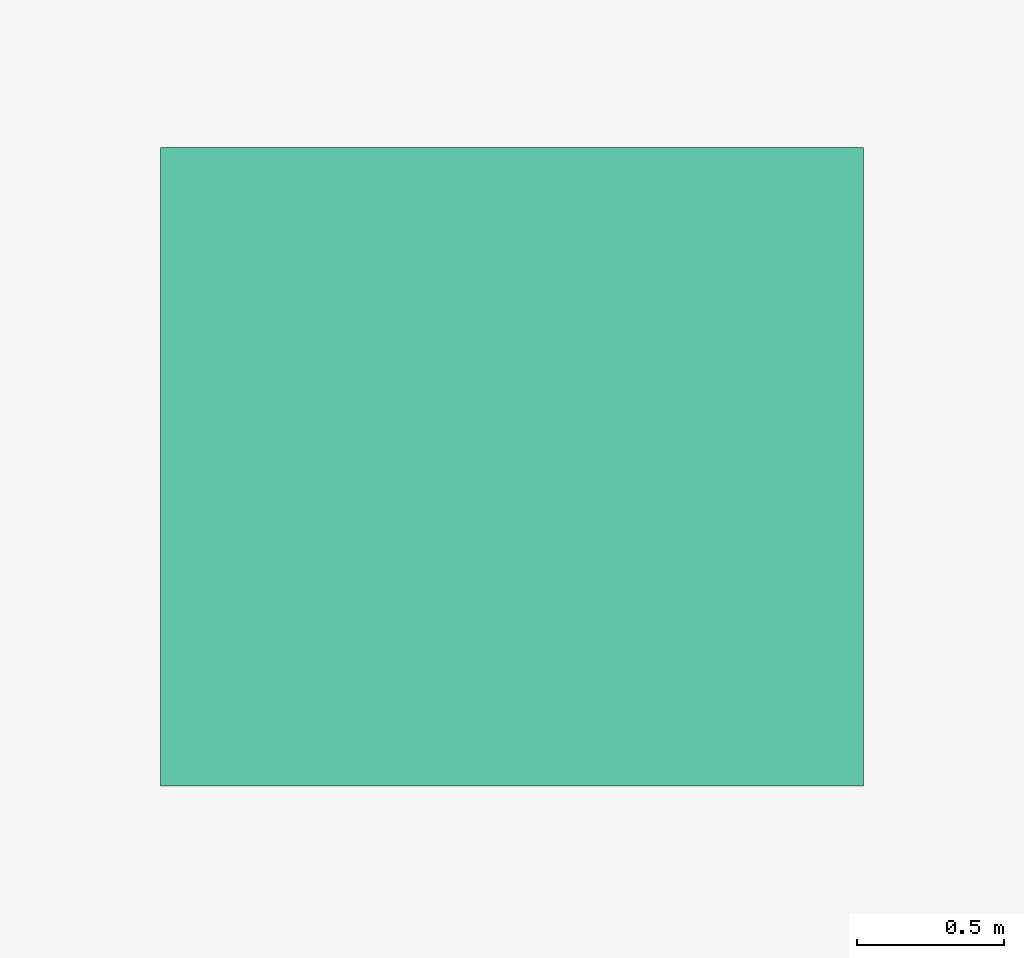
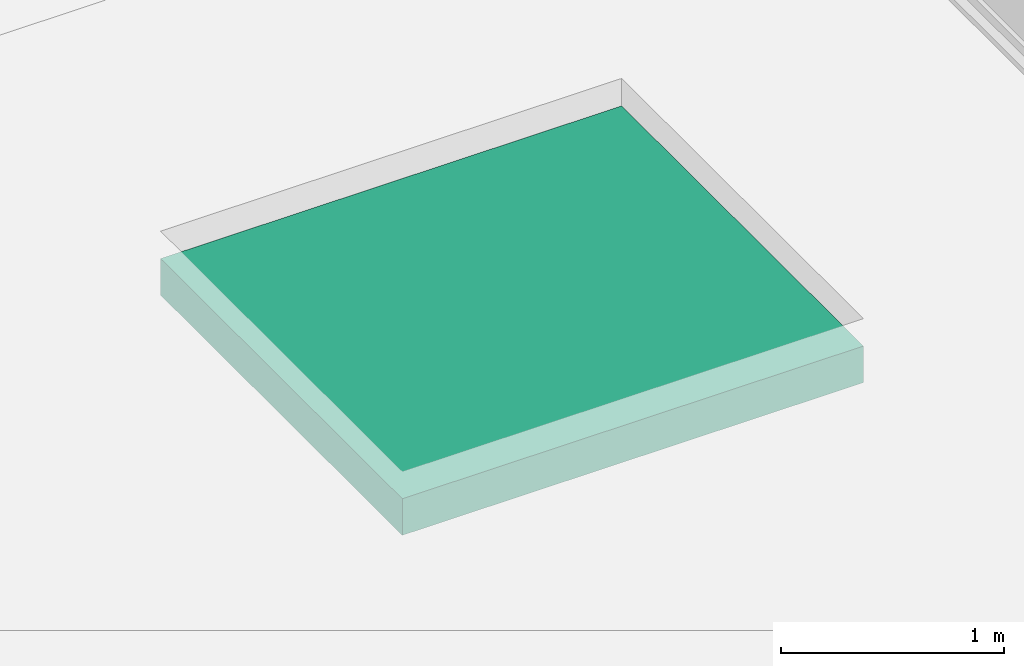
# One storey, part 21 of 28: 1 sanitary terminal.
"""IFC4X3_ADD2 building model written with IfcOpenShell, lengths in metres."""

from ifc_helpers import new_model, si_unit, direction, frame, origin_with_axes, origin_2d_with_axis, place, context, subcontext, project, spatial, rectangle, extrude, material, element, save


model = new_model("IFC4X3_ADD2")

# Units and contexts
model_context = context("Model", 3, precision=1e-05, world=origin_with_axes(), true_north=direction((0.0, 1.0)))
body_context = subcontext(model_context, "Body", "Model", "MODEL_VIEW")
ifc_project = project(units=[si_unit("LENGTHUNIT", "METRE"), si_unit("AREAUNIT", "SQUARE_METRE"), si_unit("VOLUMEUNIT", "CUBIC_METRE"), si_unit("PLANEANGLEUNIT", "RADIAN"), si_unit("TIMEUNIT", "SECOND"), si_unit("MASSUNIT", "GRAM")], contexts=[model_context])

# Site, building, storey
site_placement = place(None, origin_with_axes())
site = spatial("IfcSite", under=ifc_project, at=site_placement, Name="Site", CompositionType="ELEMENT")
building_placement = place(site_placement, origin_with_axes())
building = spatial("IfcBuilding", under=site, at=building_placement, Name="Default Building")
storey_placement = place(building_placement, frame((0.0, 0.0, -0.08), z_axis=(0.0, 0.0, 1.0), x_axis=(1.0, 0.0, 0.0)))
storey = spatial("IfcBuildingStorey", under=building, at=storey_placement, Name="Gruendung", Elevation=-0.08)

# Sanitary terminal
ifc_material = material(Name="Default")
sanitary_terminal_placement = place(storey_placement, frame((14.941109, 5.65, -0.3), z_axis=(0.0, 0.0, 1.0), x_axis=(1.0, 0.0, 0.0)))
element("IfcSanitaryTerminal", 1, at=sanitary_terminal_placement, inside=storey, material=ifc_material, Name="IfcSanitaryTerminal", PredefinedType="BATH", context=body_context, shape_type="SweptSolid", body=[
    extrude(rectangle(XDim=2.383890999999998, YDim=2.165014, at=origin_2d_with_axis()), frame((1.191945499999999, 1.082507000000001, 0.0), z_axis=(0.0, 0.0, 1.0), x_axis=(1.0, 0.0, 0.0)), (0.0, 0.0, 1.0), 0.2),
])

save(model, "model.ifc")
